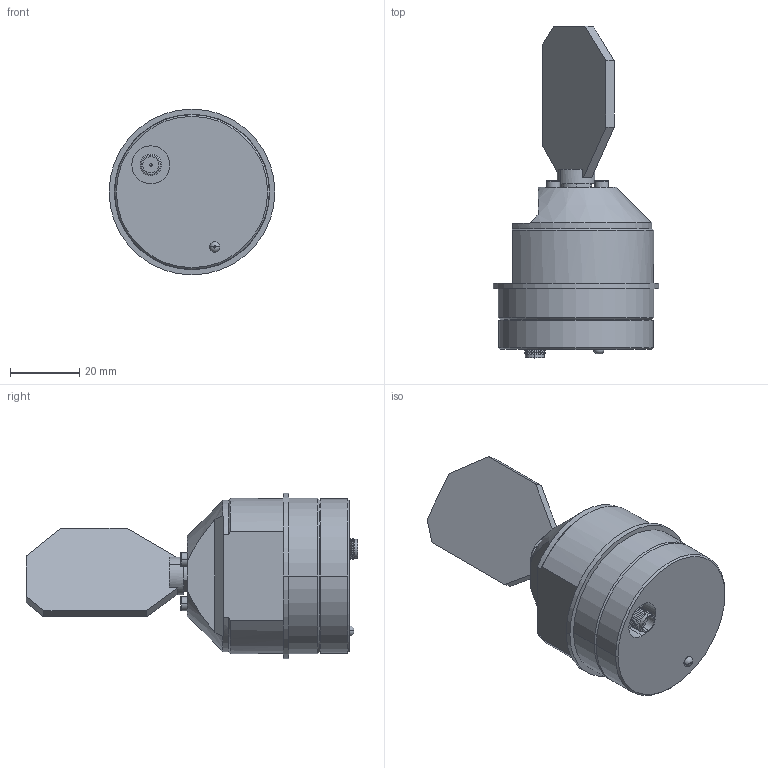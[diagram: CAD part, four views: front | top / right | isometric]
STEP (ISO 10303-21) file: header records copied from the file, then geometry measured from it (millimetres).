
FILE_DESCRIPTION (( 'STEP AP214' ), '1' );
FILE_NAME ('RTAY_A20.STEP', '2019-06-06T08:07:52', ( '' ), ( '' ), 'SwSTEP 2.0', 'SolidWorks 2011', '' );
FILE_SCHEMA (( 'AUTOMOTIVE_DESIGN' ));
Length unit declared in the file: millimetre
Products named in the file (5): A20_MirrorY; socket head cap screw_iso_ISO 4762 M2 x 5 --- 5N; Scanner_Draw10_4; Scanner_Solid; RTAY_A20
Assembly tree (5 placements, depth 2):
  RTAY_A20
    Scanner_Draw10_4
    A20_MirrorY
    socket head cap screw_iso_ISO 4762 M2 x 5 --- 5N  x2
    Scanner_Solid
Bounding box: 48 x 96.15 x 48 mm (x, y, z)
Volume: 68818.7 mm3; surface area: 13400.1 mm2
Topology: 5 solids, 5 shells, 199 faces, 441 edges, 266 vertices
Faces by surface type: plane 78, cylinder 55, cone 50, torus 16
Entity records: 5980 total; most frequent: DIRECTION 918, CARTESIAN_POINT 846, ORIENTED_EDGE 762, EDGE_CURVE 381, AXIS2_PLACEMENT_3D 369, VERTEX_POINT 233, EDGE_LOOP 192, CIRCLE 189
